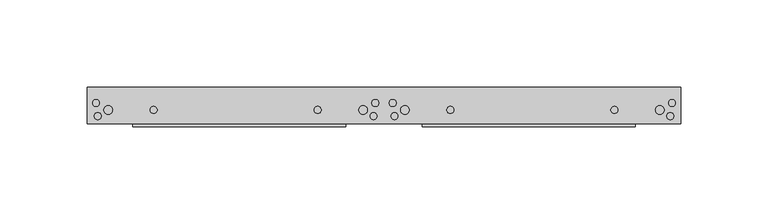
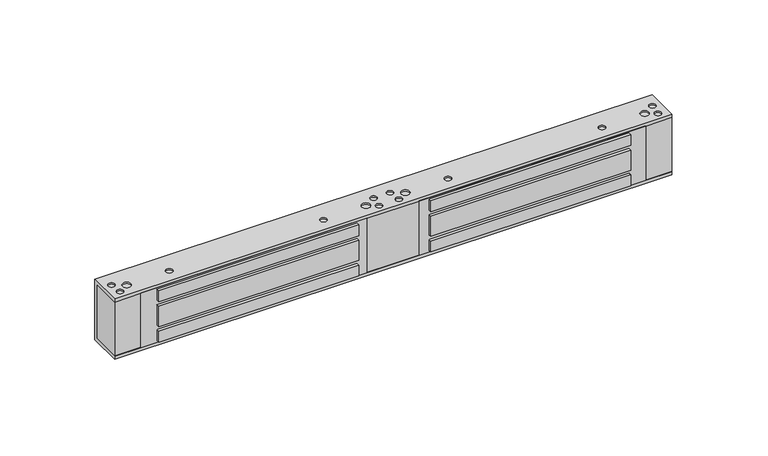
"""IFC4 building model written with IfcOpenShell, lengths in millimetres: proxy geometry, Электромагнитный_замок_ML-180A-2_AccordTec_R19 : Электромагнитный_замок_ML-180A-2_AccordTec_R19."""

import ifcopenshell
import ifcopenshell.guid

model = None  # the IFC model being written
_history = None  # IfcOwnerHistory: only IFC2X3 demands one
_inside = {}  # id of a spatial element -> (the spatial element, [elements in it])
_under = {}  # id of a project, library or spatial element -> (it, [spatial elements below it])
_declared = {}  # id of a project -> (the project, [libraries it declares])
_typed = {}  # id of a type object -> (the type object, [elements of that type])
_made_of = {}  # id of a material, layer set ... -> (it, [elements and type objects made of it])


def new_model(schema):
    """Start an empty IFC model of exactly this schema.

    Asked for "IFC4X3", IfcOpenShell would pick the latest addendum, in which some entities
    have other attributes; the version numbers below select the first issue.
    IFC2X3 requires an IfcOwnerHistory on every rooted entity: one is made here for all.
    """
    global model, _history
    if schema == "IFC4X3":
        model = ifcopenshell.file(schema_version=(4, 3, 0, 0))
    else:
        model = ifcopenshell.file(schema=schema)
    _inside.clear()
    _under.clear()
    _declared.clear()
    _typed.clear()
    _made_of.clear()
    _history = None
    if model.schema == "IFC2X3":
        org = make("IfcOrganization", Name="unknown")
        user = make(
            "IfcPersonAndOrganization",
            ThePerson=make("IfcPerson", FamilyName="unknown"),
            TheOrganization=org,
        )
        app = make(
            "IfcApplication",
            ApplicationDeveloper=org,
            Version="unknown",
            ApplicationFullName="unknown",
            ApplicationIdentifier="unknown",
        )
        _history = make(
            "IfcOwnerHistory",
            OwningUser=user,
            OwningApplication=app,
            ChangeAction="ADDED",
            CreationDate=0,
        )
    return model


def make(cls, **values):
    """One entity of the class cls with the attributes given. An attribute that is None is left unset."""
    return model.create_entity(
        cls, **{name: value for name, value in values.items() if value is not None}
    )


def rooted(cls, **values):
    """An entity with a GlobalId (a new one), such as an element, a storey or a relation."""
    return make(cls, GlobalId=ifcopenshell.guid.new(), OwnerHistory=_history, **values)


def si_unit(unit_type, name, prefix=None):
    """IfcSIUnit, for example si_unit("LENGTHUNIT", "METRE", prefix="MILLI")."""
    return make("IfcSIUnit", UnitType=unit_type, Prefix=prefix, Name=name)


def assignment(units):
    """IfcUnitAssignment: the units of a project."""
    return None if units is None else make("IfcUnitAssignment", Units=units)


def point(xyz):
    """IfcCartesianPoint."""
    return None if xyz is None else make("IfcCartesianPoint", Coordinates=xyz)


def direction(xyz):
    """IfcDirection."""
    return None if xyz is None else make("IfcDirection", DirectionRatios=xyz)


def frame(location, z_axis=None, x_axis=None):
    """IfcAxis2Placement3D, a coordinate frame: its origin and axes. An axis left out is left unset."""
    return make(
        "IfcAxis2Placement3D",
        Location=point(location),
        Axis=direction(z_axis),
        RefDirection=direction(x_axis),
    )


def origin():
    """The frame at (0, 0, 0) with its axes left unset."""
    return frame((0.0, 0.0, 0.0))


def place(relative_to, where):
    """IfcLocalPlacement: puts the frame where relative to a parent placement (None: the world)."""
    return make(
        "IfcLocalPlacement", PlacementRelTo=relative_to, RelativePlacement=where
    )


def context(
    kind, dimensions, precision=None, world=None, true_north=None, identifier=None
):
    """IfcGeometricRepresentationContext, for example the 3D "Model" context."""
    return make(
        "IfcGeometricRepresentationContext",
        ContextIdentifier=identifier,
        ContextType=kind,
        CoordinateSpaceDimension=dimensions,
        Precision=precision,
        WorldCoordinateSystem=world,
        TrueNorth=true_north,
    )


def project(units=None, contexts=None):
    """IfcProject with its units and contexts."""
    return rooted(
        "IfcProject",
        Name="project",
        RepresentationContexts=contexts,
        UnitsInContext=assignment(units),
    )


def spatial(cls, under=None, at=None, **own):
    """A site, building, storey or space (cls), placed at a placement, below another one or the project."""
    s = rooted(cls, ObjectPlacement=at, **own)
    if under is not None:
        _under.setdefault(under.id(), (under, []))[1].append(s)
    return s


def polyline(points):
    """IfcPolyline through the points."""
    return make("IfcPolyline", Points=[point(p) for p in points])


def circle_curve(where, radius):
    """IfcCircle in the frame where."""
    return make("IfcCircle", Position=where, Radius=radius)


def outline(outer, holes=None, kind="AREA"):
    """IfcArbitraryClosedProfileDef: a profile drawn as a closed curve; with holes, ...WithVoids."""
    if holes is None:
        return make("IfcArbitraryClosedProfileDef", ProfileType=kind, OuterCurve=outer)
    return make(
        "IfcArbitraryProfileDefWithVoids",
        ProfileType=kind,
        OuterCurve=outer,
        InnerCurves=holes,
    )


def extrude(swept, where, along, depth):
    """IfcExtrudedAreaSolid: the profile swept, set in the frame where, extruded along a direction by depth."""
    return make(
        "IfcExtrudedAreaSolid",
        SweptArea=swept,
        Position=where,
        ExtrudedDirection=direction(along),
        Depth=depth,
    )


def shape(context_of_items, identifier, shape_type, items):
    """IfcShapeRepresentation: the items that make up one representation, for example the "Body"."""
    return make(
        "IfcShapeRepresentation",
        ContextOfItems=context_of_items,
        RepresentationIdentifier=identifier,
        RepresentationType=shape_type,
        Items=items,
    )


def source(mapping_origin, context_of_items, identifier, shape_type, items):
    """IfcRepresentationMap: a shape defined once, which mapped items show again and again."""
    return make(
        "IfcRepresentationMap",
        MappingOrigin=mapping_origin,
        MappedRepresentation=shape(context_of_items, identifier, shape_type, items),
    )


def transform(
    local_origin,
    x_axis=None,
    y_axis=None,
    z_axis=None,
    scale=None,
    scale2=None,
    scale3=None,
    uniform=True,
):
    """IfcCartesianTransformationOperator3D, or its non-uniform kind. x_axis, y_axis, z_axis: its Axis1, 2, 3."""
    if uniform:
        return make(
            "IfcCartesianTransformationOperator3D",
            Axis1=direction(x_axis),
            Axis2=direction(y_axis),
            LocalOrigin=point(local_origin),
            Scale=scale,
            Axis3=direction(z_axis),
        )
    return make(
        "IfcCartesianTransformationOperator3DnonUniform",
        Axis1=direction(x_axis),
        Axis2=direction(y_axis),
        LocalOrigin=point(local_origin),
        Scale=scale,
        Axis3=direction(z_axis),
        Scale2=scale2,
        Scale3=scale3,
    )


def mapped(mapping_source, mapping_target):
    """IfcMappedItem: shows the shape of a source again, moved by a transform."""
    return make(
        "IfcMappedItem", MappingSource=mapping_source, MappingTarget=mapping_target
    )


def made_of(thing, what):
    """Note that an element or type object is made of a material, layer set ...; save() writes the relation."""
    if what is not None:
        _made_of.setdefault(what.id(), (what, []))[1].append(thing)
    return thing


def element(
    cls,
    number,
    at=None,
    inside=None,
    cuts=None,
    type_object=None,
    material=None,
    context=None,
    identifier="Body",
    shape_type=None,
    held_by="IfcProductDefinitionShape",
    body=None,
    shapes=None,
    **own,
):
    """One element of the class cls, such as IfcWall. Its Tag is "e" and its number.

    at: its placement. inside: the storey or other place that contains it. cuts: it is an
    opening in that element (IfcRelVoidsElement). A single representation is given by context,
    identifier, shape_type and body (its items); several are given by shapes. held_by: the class
    of the entity that holds the representations. save() writes the other relations.
    """
    e = rooted(cls, Tag="e%d" % number, ObjectPlacement=at, **own)
    if body is not None:
        shapes = [shape(context, identifier, shape_type, body)]
    if shapes is not None:
        e.Representation = make(held_by, Representations=shapes)
    if inside is not None:
        _inside.setdefault(inside.id(), (inside, []))[1].append(e)
    if cuts is not None:
        rooted(
            "IfcRelVoidsElement", RelatingBuildingElement=cuts, RelatedOpeningElement=e
        )
    if type_object is not None:
        _typed.setdefault(type_object.id(), (type_object, []))[1].append(e)
    return made_of(e, material)


def aggregate(whole, parts):
    """IfcRelAggregates: a whole, such as a stair, and the parts it consists of."""
    return rooted("IfcRelAggregates", RelatingObject=whole, RelatedObjects=parts)


def save(model, path):
    """Write the relations noted so far, then the file.

    IfcRelAggregates (storeys below a building ...), IfcRelContainedInSpatialStructure (elements
    in a storey), IfcRelDefinesByType, IfcRelAssociatesMaterial and IfcRelDeclares: one each for
    every whole, place, type object, material and project.
    """
    for whole, parts in _under.values():
        aggregate(whole, parts)
    for where, things in _inside.values():
        rooted(
            "IfcRelContainedInSpatialStructure",
            RelatedElements=things,
            RelatingStructure=where,
        )
    for kind, things in _typed.values():
        rooted("IfcRelDefinesByType", RelatedObjects=things, RelatingType=kind)
    for what, things in _made_of.values():
        rooted("IfcRelAssociatesMaterial", RelatedObjects=things, RelatingMaterial=what)
    for by, libraries in _declared.values():
        rooted("IfcRelDeclares", RelatingContext=by, RelatedDefinitions=libraries)
    model.write(path)


def plane_surface(at):
    """IfcPlane: the flat surface through the origin of the frame at, square to its z axis."""
    return make("IfcPlane", Position=at)


def revolved_surface(curve, axis_point, axis_direction):
    """IfcSurfaceOfRevolution: the curve turned about the line through axis_point along axis_direction."""
    return make(
        "IfcSurfaceOfRevolution",
        SweptCurve=make("IfcArbitraryOpenProfileDef", ProfileType="CURVE", Curve=curve),
        AxisPosition=make("IfcAxis1Placement", Location=point(axis_point), Axis=direction(axis_direction)),
    )


def advanced_brep(points, edges, surfaces, faces):
    """IfcAdvancedBrep: a solid bounded by faces that lie on surfaces and meet in shared edges.

    An edge is (start, end): straight between two places in points (the first is 0);
    or (start, end, curve); or (start, end, curve, False) where it runs against its curve.
    A face is (place in surfaces, loops), or (place, loops, False) where it looks against
    its surface's normal. A loop lists edges by number (the first is 1), with a minus sign
    where the edge is run from its end to its start. The first loop is the outer one.
    """
    corners = [point(p) for p in points]
    vertices = [make("IfcVertexPoint", VertexGeometry=c) for c in corners]
    made = []
    for start, end, *more in edges:
        made.append(
            make(
                "IfcEdgeCurve",
                EdgeStart=vertices[start],
                EdgeEnd=vertices[end],
                EdgeGeometry=more[0] if more else make("IfcPolyline", Points=[corners[start], corners[end]]),
                SameSense=more[1] if len(more) > 1 else True,
            )
        )
    hull = []
    for where, loops, *sense in faces:
        bounds = []
        for j, loop in enumerate(loops):
            ring = [make("IfcOrientedEdge", EdgeElement=made[abs(k) - 1], Orientation=k > 0) for k in loop]
            bounds.append(
                make(
                    "IfcFaceOuterBound" if j == 0 else "IfcFaceBound",
                    Bound=make("IfcEdgeLoop", EdgeList=ring),
                    Orientation=True,
                )
            )
        hull.append(make("IfcAdvancedFace", Bounds=bounds, FaceSurface=surfaces[where], SameSense=sense[0] if sense else True))
    return make("IfcAdvancedBrep", Outer=make("IfcClosedShell", CfsFaces=hull))


def generic_models_b2fa7a8a(model_context):
    return source(origin(), model_context, "Body", "SolidModel", [
        extrude(outline(polyline([(148.0, -1.5), (26.0, -1.5), (26.0, 1.0), (148.0, 1.0), (148.0, -1.5)])), frame((0.0, 0.0, 29.0), z_axis=(0.0, 0.0, 1.0), x_axis=(1.0, 0.0, 0.0)), (0.0, 0.0, 1.0), 7.0),
        extrude(outline(polyline([(148.0, -1.5), (26.0, -1.5), (26.0, 1.0), (148.0, 1.0), (148.0, -1.5)])), frame((0.0, 0.0, 13.0), z_axis=(0.0, 0.0, 1.0), x_axis=(1.0, 0.0, 0.0)), (0.0, 0.0, 1.0), 13.0),
        extrude(outline(polyline([(148.0, -1.5), (26.0, -1.5), (26.0, 1.0), (148.0, 1.0), (148.0, -1.5)])), frame((0.0, 0.0, 3.0), z_axis=(0.0, 0.0, 1.0), x_axis=(1.0, 0.0, 0.0)), (0.0, 0.0, 1.0), 7.0),
        extrude(outline(polyline([(314.0, -1.5), (192.0, -1.5), (192.0, 1.0), (314.0, 1.0), (314.0, -1.5)])), frame((0.0, 0.0, 29.0), z_axis=(0.0, 0.0, 1.0), x_axis=(1.0, 0.0, 0.0)), (0.0, 0.0, 1.0), 7.0),
        extrude(outline(polyline([(314.0, -1.5), (192.0, -1.5), (192.0, 1.0), (314.0, 1.0), (314.0, -1.5)])), frame((0.0, 0.0, 13.0), z_axis=(0.0, 0.0, 1.0), x_axis=(1.0, 0.0, 0.0)), (0.0, 0.0, 1.0), 13.0),
        extrude(outline(polyline([(314.0, -1.5), (192.0, -1.5), (192.0, 1.0), (314.0, 1.0), (314.0, -1.5)])), frame((0.0, 0.0, 3.0), z_axis=(0.0, 0.0, 1.0), x_axis=(1.0, 0.0, 0.0)), (0.0, 0.0, 1.0), 7.0),
        extrude(outline(polyline([(37.0, 154.0), (37.0, 16.0), (2.0, 16.0), (2.0, 154.0), (37.0, 154.0)]), holes=[polyline([(36.0, 26.0), (36.0, 148.0), (29.0, 148.0), (29.0, 26.0), (36.0, 26.0)]), polyline([(26.0, 26.0), (26.0, 148.0), (13.0, 148.0), (13.0, 26.0), (26.0, 26.0)]), polyline([(10.0, 26.0), (10.0, 148.0), (3.0, 148.0), (3.0, 26.0), (10.0, 26.0)])]), frame((0.0, 0.0, 0.0), z_axis=(0.0, 1.0, 0.0), x_axis=(0.0, 0.0, 1.0)), (0.0, 0.0, 1.0), 1.0),
        extrude(outline(polyline([(37.0, 324.0), (37.0, 186.0), (2.0, 186.0), (2.0, 324.0), (37.0, 324.0)]), holes=[polyline([(29.0, 192.0), (36.0, 192.0), (36.0, 314.0), (29.0, 314.0), (29.0, 192.0)]), polyline([(13.0, 192.0), (26.0, 192.0), (26.0, 314.0), (13.0, 314.0), (13.0, 192.0)]), polyline([(3.0, 192.0), (10.0, 192.0), (10.0, 314.0), (3.0, 314.0), (3.0, 192.0)])]), frame((0.0, 0.0, 0.0), z_axis=(0.0, 1.0, 0.0), x_axis=(0.0, 0.0, 1.0)), (0.0, 0.0, 1.0), 1.0),
        advanced_brep(
        [(340.0, 0.0, 37.0), (340.0, 19.0, 37.0), (340.0, 19.0, 2.0), (340.0, 0.0, 2.0), (340.0, 0.0, 0.0), (340.0, 21.0, 0.0), (340.0, 21.0, 39.0), (340.0, 0.0, 39.0), (0.0, 0.0, 37.0), (0.0, 0.0, 39.0), (0.0, 21.0, 39.0), (0.0, 21.0, 0.0), (0.0, 0.0, 0.0), (0.0, 0.0, 2.0), (0.0, 19.0, 2.0), (0.0, 19.0, 37.0), (324.0, 0.0, 37.0), (186.0, 0.0, 37.0), (154.0, 0.0, 37.0), (16.0, 0.0, 37.0), (16.0, 0.0, 2.0), (154.0, 0.0, 2.0), (186.0, 0.0, 2.0), (324.0, 0.0, 2.0), (3.0, 12.0, 0.0), (7.0, 12.0, 0.0), (9.5, 8.0, 0.0), (14.5, 8.0, 0.0), (4.0, 4.5, 0.0), (8.0, 4.5, 0.0), (36.0, 8.0, 0.0), (40.0, 8.0, 0.0), (130.0, 8.0, 0.0), (134.0, 8.0, 0.0), (155.5, 8.0, 0.0), (160.5, 8.0, 0.0), (163.0, 12.0, 0.0), (167.0, 12.0, 0.0), (162.0, 4.5, 0.0), (166.0, 4.5, 0.0), (173.0, 12.0, 0.0), (177.0, 12.0, 0.0), (179.5, 8.0, 0.0), (184.5, 8.0, 0.0), (174.0, 4.5, 0.0), (178.0, 4.5, 0.0), (206.0, 8.0, 0.0), (210.0, 8.0, 0.0), (300.0, 8.0, 0.0), (304.0, 8.0, 0.0), (325.5, 8.0, 0.0), (330.5, 8.0, 0.0), (333.0, 12.0, 0.0), (337.0, 12.0, 0.0), (332.0, 4.5, 0.0), (336.0, 4.5, 0.0), (3.0, 12.0, 39.0), (7.0, 12.0, 39.0), (9.5, 8.0, 39.0), (14.5, 8.0, 39.0), (4.0, 4.5, 39.0), (8.0, 4.5, 39.0), (36.0, 8.0, 39.0), (40.0, 8.0, 39.0), (130.0, 8.0, 39.0), (134.0, 8.0, 39.0), (155.5, 8.0, 39.0), (160.5, 8.0, 39.0), (163.0, 12.0, 39.0), (167.0, 12.0, 39.0), (162.0, 4.5, 39.0), (166.0, 4.5, 39.0), (173.0, 12.0, 39.0), (177.0, 12.0, 39.0), (179.5, 8.0, 39.0), (184.5, 8.0, 39.0), (174.0, 4.5, 39.0), (178.0, 4.5, 39.0), (206.0, 8.0, 39.0), (210.0, 8.0, 39.0), (300.0, 8.0, 39.0), (304.0, 8.0, 39.0), (325.5, 8.0, 39.0), (330.5, 8.0, 39.0), (333.0, 12.0, 39.0), (337.0, 12.0, 39.0), (332.0, 4.5, 39.0), (336.0, 4.5, 39.0), (3.0, 12.0, 1.0), (7.0, 12.0, 1.0), (9.5, 8.0, 1.0), (14.5, 8.0, 1.0), (4.0, 4.5, 1.0), (8.0, 4.5, 1.0), (36.0, 8.0, 1.0), (40.0, 8.0, 1.0), (130.0, 8.0, 1.0), (134.0, 8.0, 1.0), (155.5, 8.0, 1.0), (160.5, 8.0, 1.0), (163.0, 12.0, 1.0), (167.0, 12.0, 1.0), (162.0, 4.5, 1.0), (166.0, 4.5, 1.0), (173.0, 12.0, 1.0), (177.0, 12.0, 1.0), (179.5, 8.0, 1.0), (184.5, 8.0, 1.0), (174.0, 4.5, 1.0), (178.0, 4.5, 1.0), (206.0, 8.0, 1.0), (210.0, 8.0, 1.0), (300.0, 8.0, 1.0), (304.0, 8.0, 1.0), (325.5, 8.0, 1.0), (330.5, 8.0, 1.0), (333.0, 12.0, 1.0), (337.0, 12.0, 1.0), (332.0, 4.5, 1.0), (336.0, 4.5, 1.0), (3.0, 12.0, 38.0), (7.0, 12.0, 38.0), (9.5, 8.0, 38.0), (14.5, 8.0, 38.0), (4.0, 4.5, 38.0), (8.0, 4.5, 38.0), (36.0, 8.0, 38.0), (40.0, 8.0, 38.0), (130.0, 8.0, 38.0), (134.0, 8.0, 38.0), (155.5, 8.0, 38.0), (160.5, 8.0, 38.0), (163.0, 12.0, 38.0), (167.0, 12.0, 38.0), (162.0, 4.5, 38.0), (166.0, 4.5, 38.0), (173.0, 12.0, 38.0), (177.0, 12.0, 38.0), (179.5, 8.0, 38.0), (184.5, 8.0, 38.0), (174.0, 4.5, 38.0), (178.0, 4.5, 38.0), (206.0, 8.0, 38.0), (210.0, 8.0, 38.0), (300.0, 8.0, 38.0), (304.0, 8.0, 38.0), (325.5, 8.0, 38.0), (330.5, 8.0, 38.0), (333.0, 12.0, 38.0), (337.0, 12.0, 38.0), (332.0, 4.5, 38.0), (336.0, 4.5, 38.0)],
        [
            (0, 1),
            (1, 2),
            (2, 3),
            (3, 4),
            (4, 5),
            (5, 6),
            (6, 7),
            (7, 0),
            (8, 9),
            (9, 10),
            (10, 11),
            (11, 12),
            (12, 13),
            (13, 14),
            (14, 15),
            (15, 8),
            (0, 16),
            (16, 17),
            (17, 18),
            (18, 19),
            (19, 8),
            (15, 1),
            (14, 2),
            (13, 20),
            (20, 21),
            (21, 22),
            (22, 23),
            (23, 3),
            (12, 4),
            (11, 5),
            (24, 25, circle_curve(frame((5.0, 12.0, 0.0), z_axis=(0.0, 0.0, 1.0), x_axis=(1.0, 0.0, 0.0)), 2.0)),
            (25, 24, circle_curve(frame((5.0, 12.0, 0.0), z_axis=(0.0, 0.0, 1.0), x_axis=(1.0, 0.0, 0.0)), 2.0)),
            (26, 27, circle_curve(frame((12.0, 8.0, 0.0), z_axis=(0.0, 0.0, 1.0), x_axis=(1.0, 0.0, 0.0)), 2.5)),
            (27, 26, circle_curve(frame((12.0, 8.0, 0.0), z_axis=(0.0, 0.0, 1.0), x_axis=(1.0, 0.0, 0.0)), 2.5)),
            (28, 29, circle_curve(frame((6.0, 4.5, 0.0), z_axis=(0.0, 0.0, 1.0), x_axis=(1.0, 0.0, 0.0)), 2.0)),
            (29, 28, circle_curve(frame((6.0, 4.5, 0.0), z_axis=(0.0, 0.0, 1.0), x_axis=(1.0, 0.0, 0.0)), 2.0)),
            (30, 31, circle_curve(frame((38.0, 8.0, 0.0), z_axis=(0.0, 0.0, 1.0), x_axis=(1.0, 0.0, 0.0)), 2.0)),
            (31, 30, circle_curve(frame((38.0, 8.0, 0.0), z_axis=(0.0, 0.0, 1.0), x_axis=(1.0, 0.0, 0.0)), 2.0)),
            (32, 33, circle_curve(frame((132.0, 8.0, 0.0), z_axis=(0.0, 0.0, 1.0), x_axis=(1.0, 0.0, 0.0)), 2.0)),
            (33, 32, circle_curve(frame((132.0, 8.0, 0.0), z_axis=(0.0, 0.0, 1.0), x_axis=(1.0, 0.0, 0.0)), 2.0)),
            (34, 35, circle_curve(frame((158.0, 8.0, 0.0), z_axis=(0.0, 0.0, 1.0), x_axis=(1.0, 0.0, 0.0)), 2.5)),
            (35, 34, circle_curve(frame((158.0, 8.0, 0.0), z_axis=(0.0, 0.0, 1.0), x_axis=(1.0, 0.0, 0.0)), 2.5)),
            (36, 37, circle_curve(frame((165.0, 12.0, 0.0), z_axis=(0.0, 0.0, 1.0), x_axis=(1.0, 0.0, 0.0)), 2.0)),
            (37, 36, circle_curve(frame((165.0, 12.0, 0.0), z_axis=(0.0, 0.0, 1.0), x_axis=(1.0, 0.0, 0.0)), 2.0)),
            (38, 39, circle_curve(frame((164.0, 4.5, 0.0), z_axis=(0.0, 0.0, 1.0), x_axis=(1.0, 0.0, 0.0)), 2.0)),
            (39, 38, circle_curve(frame((164.0, 4.5, 0.0), z_axis=(0.0, 0.0, 1.0), x_axis=(1.0, 0.0, 0.0)), 2.0)),
            (40, 41, circle_curve(frame((175.0, 12.0, 0.0), z_axis=(0.0, 0.0, 1.0), x_axis=(1.0, 0.0, 0.0)), 2.0)),
            (41, 40, circle_curve(frame((175.0, 12.0, 0.0), z_axis=(0.0, 0.0, 1.0), x_axis=(1.0, 0.0, 0.0)), 2.0)),
            (42, 43, circle_curve(frame((182.0, 8.0, 0.0), z_axis=(0.0, 0.0, 1.0), x_axis=(1.0, 0.0, 0.0)), 2.5)),
            (43, 42, circle_curve(frame((182.0, 8.0, 0.0), z_axis=(0.0, 0.0, 1.0), x_axis=(1.0, 0.0, 0.0)), 2.5)),
            (44, 45, circle_curve(frame((176.0, 4.5, 0.0), z_axis=(0.0, 0.0, 1.0), x_axis=(1.0, 0.0, 0.0)), 2.0)),
            (45, 44, circle_curve(frame((176.0, 4.5, 0.0), z_axis=(0.0, 0.0, 1.0), x_axis=(1.0, 0.0, 0.0)), 2.0)),
            (46, 47, circle_curve(frame((208.0, 8.0, 0.0), z_axis=(0.0, 0.0, 1.0), x_axis=(1.0, 0.0, 0.0)), 2.0)),
            (47, 46, circle_curve(frame((208.0, 8.0, 0.0), z_axis=(0.0, 0.0, 1.0), x_axis=(1.0, 0.0, 0.0)), 2.0)),
            (48, 49, circle_curve(frame((302.0, 8.0, 0.0), z_axis=(0.0, 0.0, 1.0), x_axis=(1.0, 0.0, 0.0)), 2.0)),
            (49, 48, circle_curve(frame((302.0, 8.0, 0.0), z_axis=(0.0, 0.0, 1.0), x_axis=(1.0, 0.0, 0.0)), 2.0)),
            (50, 51, circle_curve(frame((328.0, 8.0, 0.0), z_axis=(0.0, 0.0, 1.0), x_axis=(1.0, 0.0, 0.0)), 2.5)),
            (51, 50, circle_curve(frame((328.0, 8.0, 0.0), z_axis=(0.0, 0.0, 1.0), x_axis=(1.0, 0.0, 0.0)), 2.5)),
            (52, 53, circle_curve(frame((335.0, 12.0, 0.0), z_axis=(0.0, 0.0, 1.0), x_axis=(1.0, 0.0, 0.0)), 2.0)),
            (53, 52, circle_curve(frame((335.0, 12.0, 0.0), z_axis=(0.0, 0.0, 1.0), x_axis=(1.0, 0.0, 0.0)), 2.0)),
            (54, 55, circle_curve(frame((334.0, 4.5, 0.0), z_axis=(0.0, 0.0, 1.0), x_axis=(1.0, 0.0, 0.0)), 2.0)),
            (55, 54, circle_curve(frame((334.0, 4.5, 0.0), z_axis=(0.0, 0.0, 1.0), x_axis=(1.0, 0.0, 0.0)), 2.0)),
            (10, 6),
            (9, 7),
            (56, 57, circle_curve(frame((5.0, 12.0, 39.0), z_axis=(0.0, 0.0, -1.0), x_axis=(1.0, 0.0, 0.0)), 2.0)),
            (57, 56, circle_curve(frame((5.0, 12.0, 39.0), z_axis=(0.0, 0.0, -1.0), x_axis=(1.0, 0.0, 0.0)), 2.0)),
            (58, 59, circle_curve(frame((12.0, 8.0, 39.0), z_axis=(0.0, 0.0, -1.0), x_axis=(1.0, 0.0, 0.0)), 2.5)),
            (59, 58, circle_curve(frame((12.0, 8.0, 39.0), z_axis=(0.0, 0.0, -1.0), x_axis=(1.0, 0.0, 0.0)), 2.5)),
            (60, 61, circle_curve(frame((6.0, 4.5, 39.0), z_axis=(0.0, 0.0, -1.0), x_axis=(1.0, 0.0, 0.0)), 2.0)),
            (61, 60, circle_curve(frame((6.0, 4.5, 39.0), z_axis=(0.0, 0.0, -1.0), x_axis=(1.0, 0.0, 0.0)), 2.0)),
            (62, 63, circle_curve(frame((38.0, 8.0, 39.0), z_axis=(0.0, 0.0, -1.0), x_axis=(1.0, 0.0, 0.0)), 2.0)),
            (63, 62, circle_curve(frame((38.0, 8.0, 39.0), z_axis=(0.0, 0.0, -1.0), x_axis=(1.0, 0.0, 0.0)), 2.0)),
            (64, 65, circle_curve(frame((132.0, 8.0, 39.0), z_axis=(0.0, 0.0, -1.0), x_axis=(1.0, 0.0, 0.0)), 2.0)),
            (65, 64, circle_curve(frame((132.0, 8.0, 39.0), z_axis=(0.0, 0.0, -1.0), x_axis=(1.0, 0.0, 0.0)), 2.0)),
            (66, 67, circle_curve(frame((158.0, 8.0, 39.0), z_axis=(0.0, 0.0, -1.0), x_axis=(1.0, 0.0, 0.0)), 2.5)),
            (67, 66, circle_curve(frame((158.0, 8.0, 39.0), z_axis=(0.0, 0.0, -1.0), x_axis=(1.0, 0.0, 0.0)), 2.5)),
            (68, 69, circle_curve(frame((165.0, 12.0, 39.0), z_axis=(0.0, 0.0, -1.0), x_axis=(1.0, 0.0, 0.0)), 2.0)),
            (69, 68, circle_curve(frame((165.0, 12.0, 39.0), z_axis=(0.0, 0.0, -1.0), x_axis=(1.0, 0.0, 0.0)), 2.0)),
            (70, 71, circle_curve(frame((164.0, 4.5, 39.0), z_axis=(0.0, 0.0, -1.0), x_axis=(1.0, 0.0, 0.0)), 2.0)),
            (71, 70, circle_curve(frame((164.0, 4.5, 39.0), z_axis=(0.0, 0.0, -1.0), x_axis=(1.0, 0.0, 0.0)), 2.0)),
            (72, 73, circle_curve(frame((175.0, 12.0, 39.0), z_axis=(0.0, 0.0, -1.0), x_axis=(1.0, 0.0, 0.0)), 2.0)),
            (73, 72, circle_curve(frame((175.0, 12.0, 39.0), z_axis=(0.0, 0.0, -1.0), x_axis=(1.0, 0.0, 0.0)), 2.0)),
            (74, 75, circle_curve(frame((182.0, 8.0, 39.0), z_axis=(0.0, 0.0, -1.0), x_axis=(1.0, 0.0, 0.0)), 2.5)),
            (75, 74, circle_curve(frame((182.0, 8.0, 39.0), z_axis=(0.0, 0.0, -1.0), x_axis=(1.0, 0.0, 0.0)), 2.5)),
            (76, 77, circle_curve(frame((176.0, 4.5, 39.0), z_axis=(0.0, 0.0, -1.0), x_axis=(1.0, 0.0, 0.0)), 2.0)),
            (77, 76, circle_curve(frame((176.0, 4.5, 39.0), z_axis=(0.0, 0.0, -1.0), x_axis=(1.0, 0.0, 0.0)), 2.0)),
            (78, 79, circle_curve(frame((208.0, 8.0, 39.0), z_axis=(0.0, 0.0, -1.0), x_axis=(1.0, 0.0, 0.0)), 2.0)),
            (79, 78, circle_curve(frame((208.0, 8.0, 39.0), z_axis=(0.0, 0.0, -1.0), x_axis=(1.0, 0.0, 0.0)), 2.0)),
            (80, 81, circle_curve(frame((302.0, 8.0, 39.0), z_axis=(0.0, 0.0, -1.0), x_axis=(1.0, 0.0, 0.0)), 2.0)),
            (81, 80, circle_curve(frame((302.0, 8.0, 39.0), z_axis=(0.0, 0.0, -1.0), x_axis=(1.0, 0.0, 0.0)), 2.0)),
            (82, 83, circle_curve(frame((328.0, 8.0, 39.0), z_axis=(0.0, 0.0, -1.0), x_axis=(1.0, 0.0, 0.0)), 2.5)),
            (83, 82, circle_curve(frame((328.0, 8.0, 39.0), z_axis=(0.0, 0.0, -1.0), x_axis=(1.0, 0.0, 0.0)), 2.5)),
            (84, 85, circle_curve(frame((335.0, 12.0, 39.0), z_axis=(0.0, 0.0, -1.0), x_axis=(1.0, 0.0, 0.0)), 2.0)),
            (85, 84, circle_curve(frame((335.0, 12.0, 39.0), z_axis=(0.0, 0.0, -1.0), x_axis=(1.0, 0.0, 0.0)), 2.0)),
            (86, 87, circle_curve(frame((334.0, 4.5, 39.0), z_axis=(0.0, 0.0, -1.0), x_axis=(1.0, 0.0, 0.0)), 2.0)),
            (87, 86, circle_curve(frame((334.0, 4.5, 39.0), z_axis=(0.0, 0.0, -1.0), x_axis=(1.0, 0.0, 0.0)), 2.0)),
            (88, 89, circle_curve(frame((5.0, 12.0, 1.0), z_axis=(0.0, 0.0, -1.0), x_axis=(1.0, 0.0, 0.0)), 2.0)),
            (89, 88, circle_curve(frame((5.0, 12.0, 1.0), z_axis=(0.0, 0.0, -1.0), x_axis=(1.0, 0.0, 0.0)), 2.0)),
            (90, 91, circle_curve(frame((12.0, 8.0, 1.0), z_axis=(0.0, 0.0, -1.0), x_axis=(1.0, 0.0, 0.0)), 2.5)),
            (91, 90, circle_curve(frame((12.0, 8.0, 1.0), z_axis=(0.0, 0.0, -1.0), x_axis=(1.0, 0.0, 0.0)), 2.5)),
            (92, 93, circle_curve(frame((6.0, 4.5, 1.0), z_axis=(0.0, 0.0, -1.0), x_axis=(1.0, 0.0, 0.0)), 2.0)),
            (93, 92, circle_curve(frame((6.0, 4.5, 1.0), z_axis=(0.0, 0.0, -1.0), x_axis=(1.0, 0.0, 0.0)), 2.0)),
            (94, 95, circle_curve(frame((38.0, 8.0, 1.0), z_axis=(0.0, 0.0, -1.0), x_axis=(1.0, 0.0, 0.0)), 2.0)),
            (95, 94, circle_curve(frame((38.0, 8.0, 1.0), z_axis=(0.0, 0.0, -1.0), x_axis=(1.0, 0.0, 0.0)), 2.0)),
            (96, 97, circle_curve(frame((132.0, 8.0, 1.0), z_axis=(0.0, 0.0, -1.0), x_axis=(1.0, 0.0, 0.0)), 2.0)),
            (97, 96, circle_curve(frame((132.0, 8.0, 1.0), z_axis=(0.0, 0.0, -1.0), x_axis=(1.0, 0.0, 0.0)), 2.0)),
            (98, 99, circle_curve(frame((158.0, 8.0, 1.0), z_axis=(0.0, 0.0, -1.0), x_axis=(1.0, 0.0, 0.0)), 2.5)),
            (99, 98, circle_curve(frame((158.0, 8.0, 1.0), z_axis=(0.0, 0.0, -1.0), x_axis=(1.0, 0.0, 0.0)), 2.5)),
            (100, 101, circle_curve(frame((165.0, 12.0, 1.0), z_axis=(0.0, 0.0, -1.0), x_axis=(1.0, 0.0, 0.0)), 2.0)),
            (101, 100, circle_curve(frame((165.0, 12.0, 1.0), z_axis=(0.0, 0.0, -1.0), x_axis=(1.0, 0.0, 0.0)), 2.0)),
            (102, 103, circle_curve(frame((164.0, 4.5, 1.0), z_axis=(0.0, 0.0, -1.0), x_axis=(1.0, 0.0, 0.0)), 2.0)),
            (103, 102, circle_curve(frame((164.0, 4.5, 1.0), z_axis=(0.0, 0.0, -1.0), x_axis=(1.0, 0.0, 0.0)), 2.0)),
            (104, 105, circle_curve(frame((175.0, 12.0, 1.0), z_axis=(0.0, 0.0, -1.0), x_axis=(1.0, 0.0, 0.0)), 2.0)),
            (105, 104, circle_curve(frame((175.0, 12.0, 1.0), z_axis=(0.0, 0.0, -1.0), x_axis=(1.0, 0.0, 0.0)), 2.0)),
            (106, 107, circle_curve(frame((182.0, 8.0, 1.0), z_axis=(0.0, 0.0, -1.0), x_axis=(1.0, 0.0, 0.0)), 2.5)),
            (107, 106, circle_curve(frame((182.0, 8.0, 1.0), z_axis=(0.0, 0.0, -1.0), x_axis=(1.0, 0.0, 0.0)), 2.5)),
            (108, 109, circle_curve(frame((176.0, 4.5, 1.0), z_axis=(0.0, 0.0, -1.0), x_axis=(1.0, 0.0, 0.0)), 2.0)),
            (109, 108, circle_curve(frame((176.0, 4.5, 1.0), z_axis=(0.0, 0.0, -1.0), x_axis=(1.0, 0.0, 0.0)), 2.0)),
            (110, 111, circle_curve(frame((208.0, 8.0, 1.0), z_axis=(0.0, 0.0, -1.0), x_axis=(1.0, 0.0, 0.0)), 2.0)),
            (111, 110, circle_curve(frame((208.0, 8.0, 1.0), z_axis=(0.0, 0.0, -1.0), x_axis=(1.0, 0.0, 0.0)), 2.0)),
            (112, 113, circle_curve(frame((302.0, 8.0, 1.0), z_axis=(0.0, 0.0, -1.0), x_axis=(1.0, 0.0, 0.0)), 2.0)),
            (113, 112, circle_curve(frame((302.0, 8.0, 1.0), z_axis=(0.0, 0.0, -1.0), x_axis=(1.0, 0.0, 0.0)), 2.0)),
            (114, 115, circle_curve(frame((328.0, 8.0, 1.0), z_axis=(0.0, 0.0, -1.0), x_axis=(1.0, 0.0, 0.0)), 2.5)),
            (115, 114, circle_curve(frame((328.0, 8.0, 1.0), z_axis=(0.0, 0.0, -1.0), x_axis=(1.0, 0.0, 0.0)), 2.5)),
            (116, 117, circle_curve(frame((335.0, 12.0, 1.0), z_axis=(0.0, 0.0, -1.0), x_axis=(1.0, 0.0, 0.0)), 2.0)),
            (117, 116, circle_curve(frame((335.0, 12.0, 1.0), z_axis=(0.0, 0.0, -1.0), x_axis=(1.0, 0.0, 0.0)), 2.0)),
            (118, 119, circle_curve(frame((334.0, 4.5, 1.0), z_axis=(0.0, 0.0, -1.0), x_axis=(1.0, 0.0, 0.0)), 2.0)),
            (119, 118, circle_curve(frame((334.0, 4.5, 1.0), z_axis=(0.0, 0.0, -1.0), x_axis=(1.0, 0.0, 0.0)), 2.0)),
            (89, 25),
            (24, 88),
            (91, 27),
            (26, 90),
            (93, 29),
            (28, 92),
            (95, 31),
            (30, 94),
            (97, 33),
            (32, 96),
            (99, 35),
            (34, 98),
            (101, 37),
            (36, 100),
            (103, 39),
            (38, 102),
            (105, 41),
            (40, 104),
            (107, 43),
            (42, 106),
            (109, 45),
            (44, 108),
            (111, 47),
            (46, 110),
            (113, 49),
            (48, 112),
            (115, 51),
            (50, 114),
            (117, 53),
            (52, 116),
            (119, 55),
            (54, 118),
            (120, 121, circle_curve(frame((5.0, 12.0, 38.0), z_axis=(0.0, 0.0, 1.0), x_axis=(1.0, 0.0, 0.0)), 2.0)),
            (121, 120, circle_curve(frame((5.0, 12.0, 38.0), z_axis=(0.0, 0.0, 1.0), x_axis=(1.0, 0.0, 0.0)), 2.0)),
            (122, 123, circle_curve(frame((12.0, 8.0, 38.0), z_axis=(0.0, 0.0, 1.0), x_axis=(1.0, 0.0, 0.0)), 2.5)),
            (123, 122, circle_curve(frame((12.0, 8.0, 38.0), z_axis=(0.0, 0.0, 1.0), x_axis=(1.0, 0.0, 0.0)), 2.5)),
            (124, 125, circle_curve(frame((6.0, 4.5, 38.0), z_axis=(0.0, 0.0, 1.0), x_axis=(1.0, 0.0, 0.0)), 2.0)),
            (125, 124, circle_curve(frame((6.0, 4.5, 38.0), z_axis=(0.0, 0.0, 1.0), x_axis=(1.0, 0.0, 0.0)), 2.0)),
            (126, 127, circle_curve(frame((38.0, 8.0, 38.0), z_axis=(0.0, 0.0, 1.0), x_axis=(1.0, 0.0, 0.0)), 2.0)),
            (127, 126, circle_curve(frame((38.0, 8.0, 38.0), z_axis=(0.0, 0.0, 1.0), x_axis=(1.0, 0.0, 0.0)), 2.0)),
            (128, 129, circle_curve(frame((132.0, 8.0, 38.0), z_axis=(0.0, 0.0, 1.0), x_axis=(1.0, 0.0, 0.0)), 2.0)),
            (129, 128, circle_curve(frame((132.0, 8.0, 38.0), z_axis=(0.0, 0.0, 1.0), x_axis=(1.0, 0.0, 0.0)), 2.0)),
            (130, 131, circle_curve(frame((158.0, 8.0, 38.0), z_axis=(0.0, 0.0, 1.0), x_axis=(1.0, 0.0, 0.0)), 2.5)),
            (131, 130, circle_curve(frame((158.0, 8.0, 38.0), z_axis=(0.0, 0.0, 1.0), x_axis=(1.0, 0.0, 0.0)), 2.5)),
            (132, 133, circle_curve(frame((165.0, 12.0, 38.0), z_axis=(0.0, 0.0, 1.0), x_axis=(1.0, 0.0, 0.0)), 2.0)),
            (133, 132, circle_curve(frame((165.0, 12.0, 38.0), z_axis=(0.0, 0.0, 1.0), x_axis=(1.0, 0.0, 0.0)), 2.0)),
            (134, 135, circle_curve(frame((164.0, 4.5, 38.0), z_axis=(0.0, 0.0, 1.0), x_axis=(1.0, 0.0, 0.0)), 2.0)),
            (135, 134, circle_curve(frame((164.0, 4.5, 38.0), z_axis=(0.0, 0.0, 1.0), x_axis=(1.0, 0.0, 0.0)), 2.0)),
            (136, 137, circle_curve(frame((175.0, 12.0, 38.0), z_axis=(0.0, 0.0, 1.0), x_axis=(1.0, 0.0, 0.0)), 2.0)),
            (137, 136, circle_curve(frame((175.0, 12.0, 38.0), z_axis=(0.0, 0.0, 1.0), x_axis=(1.0, 0.0, 0.0)), 2.0)),
            (138, 139, circle_curve(frame((182.0, 8.0, 38.0), z_axis=(0.0, 0.0, 1.0), x_axis=(1.0, 0.0, 0.0)), 2.5)),
            (139, 138, circle_curve(frame((182.0, 8.0, 38.0), z_axis=(0.0, 0.0, 1.0), x_axis=(1.0, 0.0, 0.0)), 2.5)),
            (140, 141, circle_curve(frame((176.0, 4.5, 38.0), z_axis=(0.0, 0.0, 1.0), x_axis=(1.0, 0.0, 0.0)), 2.0)),
            (141, 140, circle_curve(frame((176.0, 4.5, 38.0), z_axis=(0.0, 0.0, 1.0), x_axis=(1.0, 0.0, 0.0)), 2.0)),
            (142, 143, circle_curve(frame((208.0, 8.0, 38.0), z_axis=(0.0, 0.0, 1.0), x_axis=(1.0, 0.0, 0.0)), 2.0)),
            (143, 142, circle_curve(frame((208.0, 8.0, 38.0), z_axis=(0.0, 0.0, 1.0), x_axis=(1.0, 0.0, 0.0)), 2.0)),
            (144, 145, circle_curve(frame((302.0, 8.0, 38.0), z_axis=(0.0, 0.0, 1.0), x_axis=(1.0, 0.0, 0.0)), 2.0)),
            (145, 144, circle_curve(frame((302.0, 8.0, 38.0), z_axis=(0.0, 0.0, 1.0), x_axis=(1.0, 0.0, 0.0)), 2.0)),
            (146, 147, circle_curve(frame((328.0, 8.0, 38.0), z_axis=(0.0, 0.0, 1.0), x_axis=(1.0, 0.0, 0.0)), 2.5)),
            (147, 146, circle_curve(frame((328.0, 8.0, 38.0), z_axis=(0.0, 0.0, 1.0), x_axis=(1.0, 0.0, 0.0)), 2.5)),
            (148, 149, circle_curve(frame((335.0, 12.0, 38.0), z_axis=(0.0, 0.0, 1.0), x_axis=(1.0, 0.0, 0.0)), 2.0)),
            (149, 148, circle_curve(frame((335.0, 12.0, 38.0), z_axis=(0.0, 0.0, 1.0), x_axis=(1.0, 0.0, 0.0)), 2.0)),
            (150, 151, circle_curve(frame((334.0, 4.5, 38.0), z_axis=(0.0, 0.0, 1.0), x_axis=(1.0, 0.0, 0.0)), 2.0)),
            (151, 150, circle_curve(frame((334.0, 4.5, 38.0), z_axis=(0.0, 0.0, 1.0), x_axis=(1.0, 0.0, 0.0)), 2.0)),
            (121, 57),
            (56, 120),
            (123, 59),
            (58, 122),
            (125, 61),
            (60, 124),
            (127, 63),
            (62, 126),
            (129, 65),
            (64, 128),
            (131, 67),
            (66, 130),
            (133, 69),
            (68, 132),
            (135, 71),
            (70, 134),
            (137, 73),
            (72, 136),
            (139, 75),
            (74, 138),
            (141, 77),
            (76, 140),
            (143, 79),
            (78, 142),
            (145, 81),
            (80, 144),
            (147, 83),
            (82, 146),
            (149, 85),
            (84, 148),
            (151, 87),
            (86, 150),
        ],
        [
            plane_surface(frame((340.0, 0.0, 37.0), z_axis=(1.0, 0.0, 0.0), x_axis=(0.0, 1.0, 0.0))),
            plane_surface(frame((0.0, 0.0, 37.0), z_axis=(-1.0, 0.0, 0.0), x_axis=(0.0, -1.0, 0.0))),
            plane_surface(frame((340.0, 0.0, 37.0), z_axis=(0.0, 0.0, -1.0), x_axis=(-1.0, 0.0, 0.0))),
            plane_surface(frame((340.0, 19.0, 37.0), z_axis=(0.0, -1.0, 0.0), x_axis=(-1.0, 0.0, 0.0))),
            plane_surface(frame((340.0, 19.0, 2.0), z_axis=(0.0, 0.0, 1.0), x_axis=(-1.0, 0.0, 0.0))),
            plane_surface(frame((340.0, 0.0, 2.0), z_axis=(0.0, -1.0, 0.0), x_axis=(-1.0, 0.0, 0.0))),
            plane_surface(frame((340.0, 0.0, 0.0), z_axis=(0.0, 0.0, -1.0), x_axis=(-1.0, 0.0, 0.0))),
            plane_surface(frame((340.0, 21.0, 0.0), z_axis=(0.0, 1.0, 0.0), x_axis=(-1.0, 0.0, 0.0))),
            plane_surface(frame((340.0, 21.0, 39.0), z_axis=(0.0, 0.0, 1.0), x_axis=(-1.0, 0.0, 0.0))),
            plane_surface(frame((340.0, 0.0, 39.0), z_axis=(0.0, -1.0, 0.0), x_axis=(-1.0, 0.0, 0.0))),
            plane_surface(frame((7.0, 12.0, 1.0), z_axis=(0.0, 0.0, -1.0), x_axis=(0.0, 1.0, 0.0))),
            revolved_surface(polyline([(7.0, 12.0, 1.0), (7.0, 12.0, 0.0)]), (5.0, 12.0, -1.0), (0.0, 0.0, 1.0)),
            revolved_surface(polyline([(14.5, 8.0, 1.0), (14.5, 8.0, 0.0)]), (12.0, 8.0, 0.0), (0.0, 0.0, 1.0)),
            revolved_surface(polyline([(8.0, 4.5, 1.0), (8.0, 4.5, 0.0)]), (6.0, 4.5, 0.0), (0.0, 0.0, 1.0)),
            revolved_surface(polyline([(40.0, 8.0, 1.0), (40.0, 8.0, 0.0)]), (38.0, 8.0, 0.0), (0.0, 0.0, 1.0)),
            revolved_surface(polyline([(134.0, 8.0, 1.0), (134.0, 8.0, 0.0)]), (132.0, 8.0, 0.0), (0.0, 0.0, 1.0)),
            revolved_surface(polyline([(160.5, 8.0, 1.0), (160.5, 8.0, 0.0)]), (158.0, 8.0, 0.0), (0.0, 0.0, 1.0)),
            revolved_surface(polyline([(167.0, 12.0, 1.0), (167.0, 12.0, 0.0)]), (165.0, 12.0, 0.0), (0.0, 0.0, 1.0)),
            revolved_surface(polyline([(166.0, 4.5, 1.0), (166.0, 4.5, 0.0)]), (164.0, 4.5, 0.0), (0.0, 0.0, 1.0)),
            revolved_surface(polyline([(177.0, 12.0, 1.0), (177.0, 12.0, 0.0)]), (175.0, 12.0, 0.0), (0.0, 0.0, 1.0)),
            revolved_surface(polyline([(184.5, 8.0, 1.0), (184.5, 8.0, 0.0)]), (182.0, 8.0, 0.0), (0.0, 0.0, 1.0)),
            revolved_surface(polyline([(178.0, 4.5, 1.0), (178.0, 4.5, 0.0)]), (176.0, 4.5, 0.0), (0.0, 0.0, 1.0)),
            revolved_surface(polyline([(210.0, 8.0, 1.0), (210.0, 8.0, 0.0)]), (208.0, 8.0, 0.0), (0.0, 0.0, 1.0)),
            revolved_surface(polyline([(304.0, 8.0, 1.0), (304.0, 8.0, 0.0)]), (302.0, 8.0, 0.0), (0.0, 0.0, 1.0)),
            revolved_surface(polyline([(330.5, 8.0, 1.0), (330.5, 8.0, 0.0)]), (328.0, 8.0, 0.0), (0.0, 0.0, 1.0)),
            revolved_surface(polyline([(337.0, 12.0, 1.0), (337.0, 12.0, 0.0)]), (335.0, 12.0, 0.0), (0.0, 0.0, 1.0)),
            revolved_surface(polyline([(336.0, 4.5, 1.0), (336.0, 4.5, 0.0)]), (334.0, 4.5, 0.0), (0.0, 0.0, 1.0)),
            plane_surface(frame((7.0, 12.0, 38.0), z_axis=(0.0, 0.0, 1.0), x_axis=(0.0, -1.0, 0.0))),
            revolved_surface(polyline([(7.0, 12.0, 38.0), (7.0, 12.0, 39.0)]), (5.0, 12.0, 40.0), (0.0, 0.0, -1.0)),
            revolved_surface(polyline([(14.5, 8.0, 38.0), (14.5, 8.0, 39.0)]), (12.0, 8.0, 39.0), (0.0, 0.0, -1.0)),
            revolved_surface(polyline([(8.0, 4.5, 38.0), (8.0, 4.5, 39.0)]), (6.0, 4.5, 39.0), (0.0, 0.0, -1.0)),
            revolved_surface(polyline([(40.0, 8.0, 38.0), (40.0, 8.0, 39.0)]), (38.0, 8.0, 39.0), (0.0, 0.0, -1.0)),
            revolved_surface(polyline([(134.0, 8.0, 38.0), (134.0, 8.0, 39.0)]), (132.0, 8.0, 39.0), (0.0, 0.0, -1.0)),
            revolved_surface(polyline([(160.5, 8.0, 38.0), (160.5, 8.0, 39.0)]), (158.0, 8.0, 39.0), (0.0, 0.0, -1.0)),
            revolved_surface(polyline([(167.0, 12.0, 38.0), (167.0, 12.0, 39.0)]), (165.0, 12.0, 39.0), (0.0, 0.0, -1.0)),
            revolved_surface(polyline([(166.0, 4.5, 38.0), (166.0, 4.5, 39.0)]), (164.0, 4.5, 39.0), (0.0, 0.0, -1.0)),
            revolved_surface(polyline([(177.0, 12.0, 38.0), (177.0, 12.0, 39.0)]), (175.0, 12.0, 39.0), (0.0, 0.0, -1.0)),
            revolved_surface(polyline([(184.5, 8.0, 38.0), (184.5, 8.0, 39.0)]), (182.0, 8.0, 39.0), (0.0, 0.0, -1.0)),
            revolved_surface(polyline([(178.0, 4.5, 38.0), (178.0, 4.5, 39.0)]), (176.0, 4.5, 39.0), (0.0, 0.0, -1.0)),
            revolved_surface(polyline([(210.0, 8.0, 38.0), (210.0, 8.0, 39.0)]), (208.0, 8.0, 39.0), (0.0, 0.0, -1.0)),
            revolved_surface(polyline([(304.0, 8.0, 38.0), (304.0, 8.0, 39.0)]), (302.0, 8.0, 39.0), (0.0, 0.0, -1.0)),
            revolved_surface(polyline([(330.5, 8.0, 38.0), (330.5, 8.0, 39.0)]), (328.0, 8.0, 39.0), (0.0, 0.0, -1.0)),
            revolved_surface(polyline([(337.0, 12.0, 38.0), (337.0, 12.0, 39.0)]), (335.0, 12.0, 39.0), (0.0, 0.0, -1.0)),
            revolved_surface(polyline([(336.0, 4.5, 38.0), (336.0, 4.5, 39.0)]), (334.0, 4.5, 39.0), (0.0, 0.0, -1.0)),
        ],
        [
            (0, [[1, 2, 3, 4, 5, 6, 7, 8]]),
            (1, [[9, 10, 11, 12, 13, 14, 15, 16]]),
            (2, [[-1, 17, 18, 19, 20, 21, -16, 22]]),
            (3, [[-2, -22, -15, 23]]),
            (4, [[-3, -23, -14, 24, 25, 26, 27, 28]]),
            (5, [[-4, -28, -27, -26, -25, -24, -13, 29]]),
            (6, [[-5, -29, -12, 30], [31, 32], [33, 34], [35, 36], [37, 38], [39, 40], [41, 42], [43, 44], [45, 46], [47, 48], [49, 50], [51, 52], [53, 54], [55, 56], [57, 58], [59, 60], [61, 62]]),
            (7, [[-6, -30, -11, 63]]),
            (8, [[-7, -63, -10, 64], [65, 66], [67, 68], [69, 70], [71, 72], [73, 74], [75, 76], [77, 78], [79, 80], [81, 82], [83, 84], [85, 86], [87, 88], [89, 90], [91, 92], [93, 94], [95, 96]]),
            (9, [[-8, -64, -9, -21, -20, -19, -18, -17]]),
            (10, [[97, 98]]),
            (10, [[99, 100]]),
            (10, [[101, 102]]),
            (10, [[103, 104]]),
            (10, [[105, 106]]),
            (10, [[107, 108]]),
            (10, [[109, 110]]),
            (10, [[111, 112]]),
            (10, [[113, 114]]),
            (10, [[115, 116]]),
            (10, [[117, 118]]),
            (10, [[119, 120]]),
            (10, [[121, 122]]),
            (10, [[123, 124]]),
            (10, [[125, 126]]),
            (10, [[127, 128]]),
            (11, [[-98, 129, -31, 130]]),
            (11, [[-97, -130, -32, -129]]),
            (12, [[-100, 131, -33, 132]]),
            (12, [[-99, -132, -34, -131]]),
            (13, [[-102, 133, -35, 134]]),
            (13, [[-101, -134, -36, -133]]),
            (14, [[-104, 135, -37, 136]]),
            (14, [[-103, -136, -38, -135]]),
            (15, [[-106, 137, -39, 138]]),
            (15, [[-105, -138, -40, -137]]),
            (16, [[-108, 139, -41, 140]]),
            (16, [[-107, -140, -42, -139]]),
            (17, [[-110, 141, -43, 142]]),
            (17, [[-109, -142, -44, -141]]),
            (18, [[-112, 143, -45, 144]]),
            (18, [[-111, -144, -46, -143]]),
            (19, [[-114, 145, -47, 146]]),
            (19, [[-113, -146, -48, -145]]),
            (20, [[-116, 147, -49, 148]]),
            (20, [[-115, -148, -50, -147]]),
            (21, [[-118, 149, -51, 150]]),
            (21, [[-117, -150, -52, -149]]),
            (22, [[-120, 151, -53, 152]]),
            (22, [[-119, -152, -54, -151]]),
            (23, [[-122, 153, -55, 154]]),
            (23, [[-121, -154, -56, -153]]),
            (24, [[-124, 155, -57, 156]]),
            (24, [[-123, -156, -58, -155]]),
            (25, [[-126, 157, -59, 158]]),
            (25, [[-125, -158, -60, -157]]),
            (26, [[-128, 159, -61, 160]]),
            (26, [[-127, -160, -62, -159]]),
            (27, [[161, 162]]),
            (27, [[163, 164]]),
            (27, [[165, 166]]),
            (27, [[167, 168]]),
            (27, [[169, 170]]),
            (27, [[171, 172]]),
            (27, [[173, 174]]),
            (27, [[175, 176]]),
            (27, [[177, 178]]),
            (27, [[179, 180]]),
            (27, [[181, 182]]),
            (27, [[183, 184]]),
            (27, [[185, 186]]),
            (27, [[187, 188]]),
            (27, [[189, 190]]),
            (27, [[191, 192]]),
            (28, [[-162, 193, -65, 194]]),
            (28, [[-161, -194, -66, -193]]),
            (29, [[-164, 195, -67, 196]]),
            (29, [[-163, -196, -68, -195]]),
            (30, [[-166, 197, -69, 198]]),
            (30, [[-165, -198, -70, -197]]),
            (31, [[-168, 199, -71, 200]]),
            (31, [[-167, -200, -72, -199]]),
            (32, [[-170, 201, -73, 202]]),
            (32, [[-169, -202, -74, -201]]),
            (33, [[-172, 203, -75, 204]]),
            (33, [[-171, -204, -76, -203]]),
            (34, [[-174, 205, -77, 206]]),
            (34, [[-173, -206, -78, -205]]),
            (35, [[-176, 207, -79, 208]]),
            (35, [[-175, -208, -80, -207]]),
            (36, [[-178, 209, -81, 210]]),
            (36, [[-177, -210, -82, -209]]),
            (37, [[-180, 211, -83, 212]]),
            (37, [[-179, -212, -84, -211]]),
            (38, [[-182, 213, -85, 214]]),
            (38, [[-181, -214, -86, -213]]),
            (39, [[-184, 215, -87, 216]]),
            (39, [[-183, -216, -88, -215]]),
            (40, [[-186, 217, -89, 218]]),
            (40, [[-185, -218, -90, -217]]),
            (41, [[-188, 219, -91, 220]]),
            (41, [[-187, -220, -92, -219]]),
            (42, [[-190, 221, -93, 222]]),
            (42, [[-189, -222, -94, -221]]),
            (43, [[-192, 223, -95, 224]]),
            (43, [[-191, -224, -96, -223]]),
        ],
    ),
        extrude(outline(polyline([(0.0, 19.0), (340.0, 19.0), (340.0, 0.0), (324.0, 0.0), (324.0, 1.0), (186.0, 1.0), (186.0, 0.0), (154.0, 0.0), (154.0, 1.0), (16.0, 1.0), (16.0, 0.0), (0.0, 0.0), (0.0, 19.0)])), frame((0.0, 0.0, 2.0), z_axis=(0.0, 0.0, 1.0), x_axis=(1.0, 0.0, 0.0)), (0.0, 0.0, 1.0), 35.0),
    ])


if __name__ == "__main__":
    model = new_model("IFC4")
    model_context = context("Model", 3, world=origin())
    ifc_project = project(units=[si_unit("LENGTHUNIT", "METRE", prefix="MILLI")], contexts=[model_context])
    site = spatial("IfcSite", under=ifc_project)
    building = spatial("IfcBuilding", under=site)
    placement = place(None, origin())
    generic_models_shape = generic_models_b2fa7a8a(model_context)
    element("IfcBuildingElementProxy", 1, Name="Электромагнитный_замок_ML-180A-2_AccordTec_R19 : Электромагнитный_замок_ML-180A-2_AccordTec_R19", ObjectType="Электромагнитный_замок_ML-180A-2_AccordTec_R19 : Электромагнитный_замок_ML-180A-2_AccordTec_R19", at=placement, inside=building, context=model_context, shape_type="MappedRepresentation", body=[
        mapped(generic_models_shape, transform((0.0, 0.0, 0.0), x_axis=(1.0, 0.0, 0.0), y_axis=(0.0, 1.0, 0.0), z_axis=(0.0, 0.0, 1.0))),
    ])
    save(model, "model.ifc")
